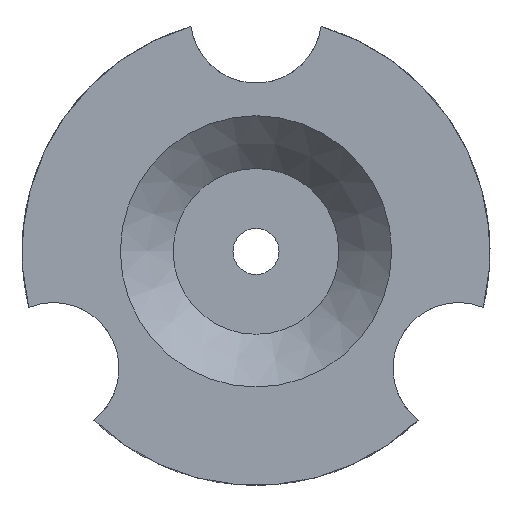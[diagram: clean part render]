
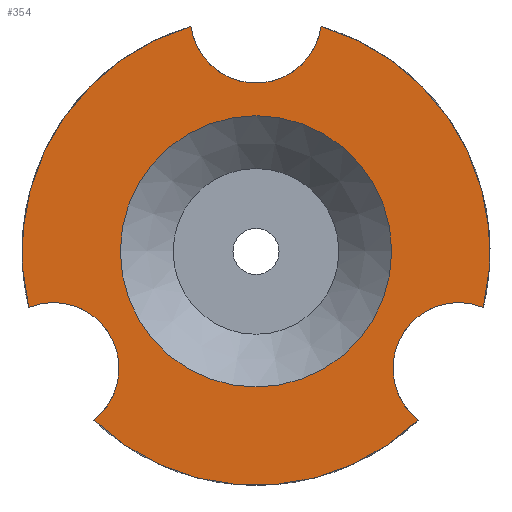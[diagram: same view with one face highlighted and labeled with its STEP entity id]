
A CAD part, top view. The second image highlights one B-rep face of the part: STEP entity #354.
In plain terms, the highlighted planar face has unit normal (0, 0, 1).
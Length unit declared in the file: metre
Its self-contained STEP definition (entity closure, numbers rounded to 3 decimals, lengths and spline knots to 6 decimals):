
#56=ORIENTED_EDGE('',*,*,#158,.T.);
#57=ORIENTED_EDGE('',*,*,#159,.T.);
#58=ORIENTED_EDGE('',*,*,#160,.F.);
#59=ORIENTED_EDGE('',*,*,#161,.T.);
#60=ORIENTED_EDGE('',*,*,#162,.F.);
#61=ORIENTED_EDGE('',*,*,#163,.T.);
#62=ORIENTED_EDGE('',*,*,#164,.F.);
#158=EDGE_CURVE('',#209,#209,#245,.T.);
#159=EDGE_CURVE('',#210,#211,#246,.T.);
#160=EDGE_CURVE('',#212,#211,#247,.T.);
#161=EDGE_CURVE('',#212,#213,#248,.T.);
#162=EDGE_CURVE('',#214,#213,#249,.T.);
#163=EDGE_CURVE('',#214,#215,#250,.T.);
#164=EDGE_CURVE('',#210,#215,#251,.T.);
#209=VERTEX_POINT('',#581);
#210=VERTEX_POINT('',#583);
#211=VERTEX_POINT('',#584);
#212=VERTEX_POINT('',#586);
#213=VERTEX_POINT('',#588);
#214=VERTEX_POINT('',#590);
#215=VERTEX_POINT('',#592);
#245=CIRCLE('',#395,0.020575);
#246=CIRCLE('',#396,0.0355);
#247=CIRCLE('',#397,0.009975);
#248=CIRCLE('',#398,0.0355);
#249=CIRCLE('',#399,0.009975);
#250=CIRCLE('',#400,0.0355);
#251=CIRCLE('',#401,0.009975);
#278=EDGE_LOOP('',(#56));
#279=EDGE_LOOP('',(#57,#58,#59,#60,#61,#62));
#313=FACE_BOUND('',#278,.T.);
#314=FACE_BOUND('',#279,.T.);
#347=PLANE('',#394);
#354=ADVANCED_FACE('',(#313,#314),#347,.F.);
#394=AXIS2_PLACEMENT_3D('',#579,#457,#458);
#395=AXIS2_PLACEMENT_3D('',#580,#459,#460);
#396=AXIS2_PLACEMENT_3D('',#582,#461,#462);
#397=AXIS2_PLACEMENT_3D('',#585,#463,#464);
#398=AXIS2_PLACEMENT_3D('',#587,#465,#466);
#399=AXIS2_PLACEMENT_3D('',#589,#467,#468);
#400=AXIS2_PLACEMENT_3D('',#591,#469,#470);
#401=AXIS2_PLACEMENT_3D('',#593,#471,#472);
#457=DIRECTION('',(0.,0.,-1.));
#458=DIRECTION('',(1.,0.,0.));
#459=DIRECTION('',(0.,0.,-1.));
#460=DIRECTION('',(-1.,0.,0.));
#461=DIRECTION('',(0.,0.,1.));
#462=DIRECTION('',(1.,0.,0.));
#463=DIRECTION('',(0.,0.,1.));
#464=DIRECTION('',(1.,0.,0.));
#465=DIRECTION('',(0.,0.,1.));
#466=DIRECTION('',(1.,0.,0.));
#467=DIRECTION('',(0.,0.,1.));
#468=DIRECTION('',(1.,0.,0.));
#469=DIRECTION('',(0.,0.,1.));
#470=DIRECTION('',(1.,0.,0.));
#471=DIRECTION('',(0.,0.,1.));
#472=DIRECTION('',(1.,0.,0.));
#579=CARTESIAN_POINT('',(0.,0.,0.036));
#580=CARTESIAN_POINT('',(0.,0.,0.036));
#581=CARTESIAN_POINT('',(-0.020575,0.,0.036));
#582=CARTESIAN_POINT('',(0.,0.,0.036));
#583=CARTESIAN_POINT('',(0.034468,-0.008496,0.036));
#584=CARTESIAN_POINT('',(0.009876,0.034099,0.036));
#585=CARTESIAN_POINT('',(0.,0.0355,0.036));
#586=CARTESIAN_POINT('',(-0.009876,0.034099,0.036));
#587=CARTESIAN_POINT('',(0.,0.,0.036));
#588=CARTESIAN_POINT('',(-0.034468,-0.008496,0.036));
#589=CARTESIAN_POINT('',(-0.030744,-0.01775,0.036));
#590=CARTESIAN_POINT('',(-0.024592,-0.025602,0.036));
#591=CARTESIAN_POINT('',(0.,0.,0.036));
#592=CARTESIAN_POINT('',(0.024592,-0.025602,0.036));
#593=CARTESIAN_POINT('',(0.030744,-0.01775,0.036));
